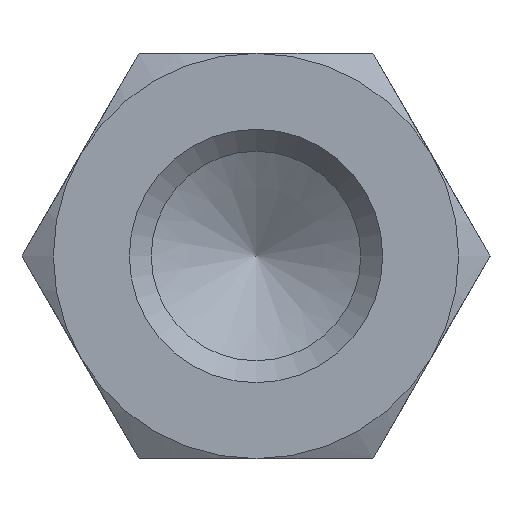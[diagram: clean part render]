
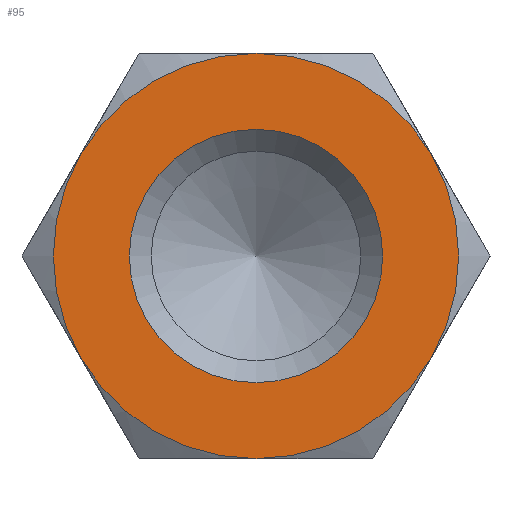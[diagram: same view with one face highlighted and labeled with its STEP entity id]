
A CAD part, left-side view. The second image highlights one B-rep face of the part: STEP entity #95.
In plain terms, the highlighted planar face has unit normal (-1, 0, 0).
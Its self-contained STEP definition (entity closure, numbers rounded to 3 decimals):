
#95 = ADVANCED_FACE( '', ( #147, #148 ), #149, .F. );
#147 = FACE_OUTER_BOUND( '', #206, .T. );
#148 = FACE_BOUND( '', #207, .T. );
#149 = PLANE( '', #208 );
#206 = EDGE_LOOP( '', ( #356, #357, #358, #359, #360, #361 ) );
#207 = EDGE_LOOP( '', ( #362 ) );
#208 = AXIS2_PLACEMENT_3D( '', #363, #364, #365 );
#356 = ORIENTED_EDGE( '', *, *, #440, .F. );
#357 = ORIENTED_EDGE( '', *, *, #425, .F. );
#358 = ORIENTED_EDGE( '', *, *, #441, .F. );
#359 = ORIENTED_EDGE( '', *, *, #437, .F. );
#360 = ORIENTED_EDGE( '', *, *, #442, .F. );
#361 = ORIENTED_EDGE( '', *, *, #443, .F. );
#362 = ORIENTED_EDGE( '', *, *, #439, .T. );
#363 = CARTESIAN_POINT( '', ( -70., 0., 0. ) );
#364 = DIRECTION( '', ( 1., 0., 0. ) );
#365 = DIRECTION( '', ( 0., 0., -1. ) );
#425 = EDGE_CURVE( '', #495, #493, #497, .T. );
#437 = EDGE_CURVE( '', #447, #506, #513, .T. );
#439 = EDGE_CURVE( '', #516, #516, #517, .T. );
#440 = EDGE_CURVE( '', #493, #486, #518, .T. );
#441 = EDGE_CURVE( '', #506, #495, #519, .T. );
#442 = EDGE_CURVE( '', #481, #447, #520, .T. );
#443 = EDGE_CURVE( '', #486, #481, #521, .T. );
#447 = VERTEX_POINT( '', #525 );
#481 = VERTEX_POINT( '', #595 );
#486 = VERTEX_POINT( '', #611 );
#493 = VERTEX_POINT( '', #632 );
#495 = VERTEX_POINT( '', #637 );
#497 = CIRCLE( '', #644, 4. );
#506 = VERTEX_POINT( '', #670 );
#513 = CIRCLE( '', #701, 4. );
#516 = VERTEX_POINT( '', #704 );
#517 = CIRCLE( '', #705, 2.5 );
#518 = CIRCLE( '', #706, 4. );
#519 = CIRCLE( '', #707, 4. );
#520 = CIRCLE( '', #708, 4. );
#521 = CIRCLE( '', #709, 4. );
#525 = CARTESIAN_POINT( '', ( -70., -3.464, 2. ) );
#595 = CARTESIAN_POINT( '', ( -70., 0., 4. ) );
#611 = CARTESIAN_POINT( '', ( -70., 3.464, 2. ) );
#632 = CARTESIAN_POINT( '', ( -70., 3.464, -2. ) );
#637 = CARTESIAN_POINT( '', ( -70., 0., -4. ) );
#644 = AXIS2_PLACEMENT_3D( '', #744, #745, #746 );
#670 = CARTESIAN_POINT( '', ( -70., -3.464, -2. ) );
#701 = AXIS2_PLACEMENT_3D( '', #749, #750, #751 );
#704 = CARTESIAN_POINT( '', ( -70., 0., -2.5 ) );
#705 = AXIS2_PLACEMENT_3D( '', #755, #756, #757 );
#706 = AXIS2_PLACEMENT_3D( '', #758, #759, #760 );
#707 = AXIS2_PLACEMENT_3D( '', #761, #762, #763 );
#708 = AXIS2_PLACEMENT_3D( '', #764, #765, #766 );
#709 = AXIS2_PLACEMENT_3D( '', #767, #768, #769 );
#744 = CARTESIAN_POINT( '', ( -70., 0., 0. ) );
#745 = DIRECTION( '', ( 1., 0., 0. ) );
#746 = DIRECTION( '', ( 0., 0., -1. ) );
#749 = CARTESIAN_POINT( '', ( -70., 0., 0. ) );
#750 = DIRECTION( '', ( 1., 0., 0. ) );
#751 = DIRECTION( '', ( 0., 0., -1. ) );
#755 = CARTESIAN_POINT( '', ( -70., 0., 0. ) );
#756 = DIRECTION( '', ( 1., 0., 0. ) );
#757 = DIRECTION( '', ( 0., 0., -1. ) );
#758 = CARTESIAN_POINT( '', ( -70., 0., 0. ) );
#759 = DIRECTION( '', ( 1., 0., 0. ) );
#760 = DIRECTION( '', ( 0., 0., -1. ) );
#761 = CARTESIAN_POINT( '', ( -70., 0., 0. ) );
#762 = DIRECTION( '', ( 1., 0., 0. ) );
#763 = DIRECTION( '', ( 0., 0., -1. ) );
#764 = CARTESIAN_POINT( '', ( -70., 0., 0. ) );
#765 = DIRECTION( '', ( 1., 0., 0. ) );
#766 = DIRECTION( '', ( 0., 0., -1. ) );
#767 = CARTESIAN_POINT( '', ( -70., 0., 0. ) );
#768 = DIRECTION( '', ( 1., 0., 0. ) );
#769 = DIRECTION( '', ( 0., 0., -1. ) );
